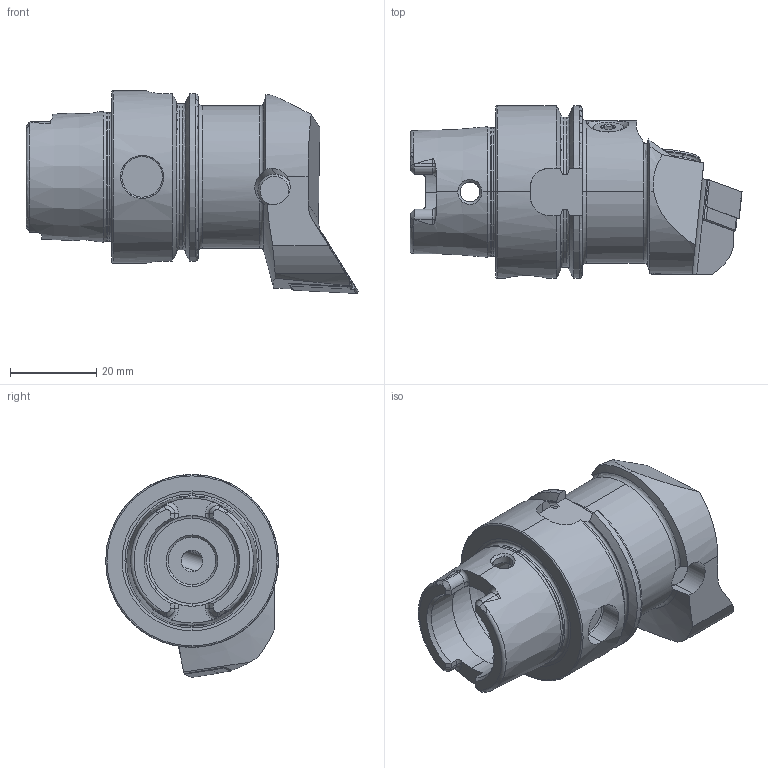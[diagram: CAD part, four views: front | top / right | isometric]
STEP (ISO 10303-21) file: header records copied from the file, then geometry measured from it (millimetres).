
FILE_DESCRIPTION (( 'STEP AP214' ), '1' );
FILE_NAME ('HA4.PDF.RJA.055-HP.STEP', '2020-09-17T07:06:57', ( '' ), ( '' ), 'SwSTEP 2.0', 'SolidWorks 2017', '' );
FILE_SCHEMA (( 'AUTOMOTIVE_DESIGN' ));
Length unit declared in the file: millimetre
Products named in the file (13): HA4.PDF.RJA.055-HP; HA4-PDF.RJA.055-HP_A_Fertigbearbeitung; DIN 3771 - 13x1; WCD-ER1.101.000; DNMG150604; WCD-ER4.101.017_A; ISO 8752 2x8; WDF-ER3.101.000_A; CHP-ER1.015.006; DIN 7991 - M5x15; CHP-ER1.008.011_A; CHP-ER1.015.006_A; WDF-ER2.101.003_A
Assembly tree (12 placements, depth 3):
  HA4.PDF.RJA.055-HP
    HA4-PDF.RJA.055-HP_A_Fertigbearbeitung
    DNMG150604
    WCD-ER1.101.000
    WCD-ER4.101.017_A
    WDF-ER3.101.000_A
    WDF-ER2.101.003_A
    CHP-ER1.015.006
      CHP-ER1.015.006_A
      DIN 3771 - 13x1
      DIN 7991 - M5x15
    CHP-ER1.008.011_A
    ISO 8752 2x8
Bounding box: 76.9 x 40 x 47 mm (x, y, z)
Volume: 46523.7 mm3; surface area: 19558.6 mm2
Topology: 11 solids, 11 shells, 488 faces, 1213 edges, 735 vertices
Faces by surface type: plane 158, cylinder 136, cone 119, torus 59, bspline 16
Entity records: 17407 total; most frequent: CARTESIAN_POINT 4870, ORIENTED_EDGE 2386, DIRECTION 2350, EDGE_CURVE 1193, AXIS2_PLACEMENT_3D 926, VERTEX_POINT 735, EDGE_LOOP 518, VECTOR 498
